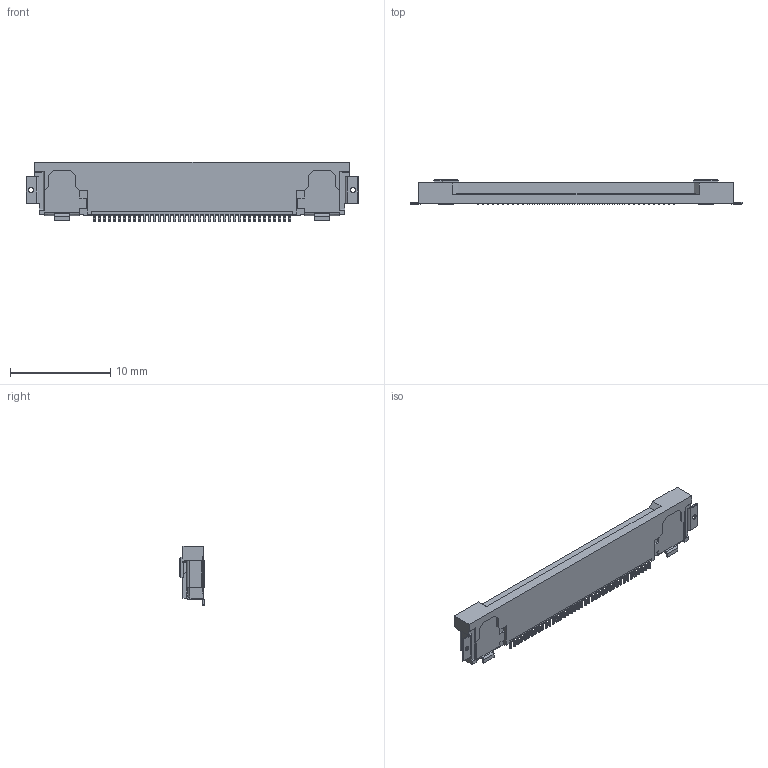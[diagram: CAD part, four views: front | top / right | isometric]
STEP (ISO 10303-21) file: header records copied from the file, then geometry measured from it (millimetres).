
FILE_DESCRIPTION (( 'STEP AP203' ), '1' );
FILE_NAME ('EVAFLEX5-SE_40P.STEP', '2011-10-07T06:04:33', ( '' ), ( '' ), 'SwSTEP 2.0', 'SolidWorks 2011', '' );
FILE_SCHEMA (( 'CONFIG_CONTROL_DESIGN' ));
Length unit declared in the file: millimetre
Products named in the file (1): EVAFLEX5-SE_40P
Bounding box: 33.1 x 2.4 x 5.9 mm (x, y, z)
Volume: 309.4 mm3; surface area: 543.4 mm2
Topology: 1 solids, 1 shells, 760 faces, 2139 edges, 1383 vertices
Faces by surface type: plane 547, cylinder 129, cone 80, bspline 4
Entity records: 25150 total; most frequent: CARTESIAN_POINT 6697, ORIENTED_EDGE 4278, DIRECTION 3119, EDGE_CURVE 2139, LINE 1421, VECTOR 1421, VERTEX_POINT 1383, AXIS2_PLACEMENT_3D 849
